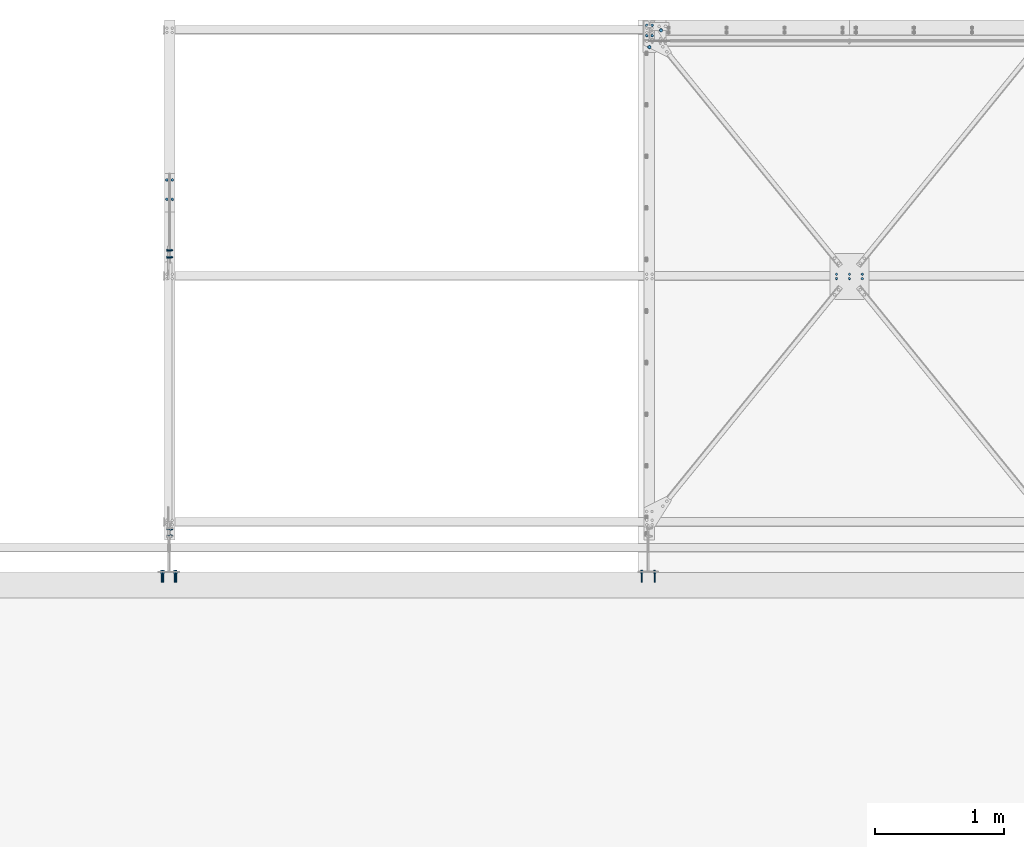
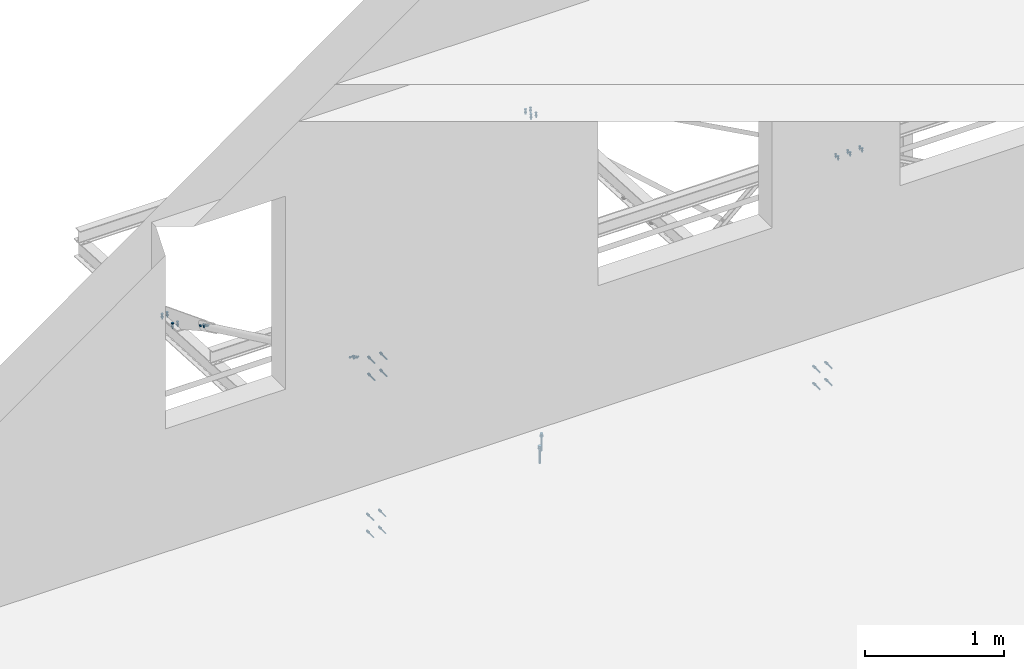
# One storey, part 184 of 362: 10 mechanical fasteners.
"""IFC2X3 building model written with IfcOpenShell, lengths in millimetres."""

import ifcopenshell
import ifcopenshell.guid

model = None  # the IFC model being written
_history = None  # IfcOwnerHistory: only IFC2X3 demands one
_inside = {}  # id of a spatial element -> (the spatial element, [elements in it])
_under = {}  # id of a project, library or spatial element -> (it, [spatial elements below it])
_declared = {}  # id of a project -> (the project, [libraries it declares])
_typed = {}  # id of a type object -> (the type object, [elements of that type])
_made_of = {}  # id of a material, layer set ... -> (it, [elements and type objects made of it])


def new_model(schema):
    """Start an empty IFC model of exactly this schema.

    Asked for "IFC4X3", IfcOpenShell would pick the latest addendum, in which some entities
    have other attributes; the version numbers below select the first issue.
    IFC2X3 requires an IfcOwnerHistory on every rooted entity: one is made here for all.
    """
    global model, _history
    if schema == "IFC4X3":
        model = ifcopenshell.file(schema_version=(4, 3, 0, 0))
    else:
        model = ifcopenshell.file(schema=schema)
    _inside.clear()
    _under.clear()
    _declared.clear()
    _typed.clear()
    _made_of.clear()
    _history = None
    if model.schema == "IFC2X3":
        org = make("IfcOrganization", Name="unknown")
        user = make(
            "IfcPersonAndOrganization",
            ThePerson=make("IfcPerson", FamilyName="unknown"),
            TheOrganization=org,
        )
        app = make(
            "IfcApplication",
            ApplicationDeveloper=org,
            Version="unknown",
            ApplicationFullName="unknown",
            ApplicationIdentifier="unknown",
        )
        _history = make(
            "IfcOwnerHistory",
            OwningUser=user,
            OwningApplication=app,
            ChangeAction="ADDED",
            CreationDate=0,
        )
    return model


def make(cls, **values):
    """One entity of the class cls with the attributes given. An attribute that is None is left unset."""
    return model.create_entity(
        cls, **{name: value for name, value in values.items() if value is not None}
    )


def rooted(cls, **values):
    """An entity with a GlobalId (a new one), such as an element, a storey or a relation."""
    return make(cls, GlobalId=ifcopenshell.guid.new(), OwnerHistory=_history, **values)


def si_unit(unit_type, name, prefix=None):
    """IfcSIUnit, for example si_unit("LENGTHUNIT", "METRE", prefix="MILLI")."""
    return make("IfcSIUnit", UnitType=unit_type, Prefix=prefix, Name=name)


def assignment(units):
    """IfcUnitAssignment: the units of a project."""
    return None if units is None else make("IfcUnitAssignment", Units=units)


def point(xyz):
    """IfcCartesianPoint."""
    return None if xyz is None else make("IfcCartesianPoint", Coordinates=xyz)


def direction(xyz):
    """IfcDirection."""
    return None if xyz is None else make("IfcDirection", DirectionRatios=xyz)


def frame(location, z_axis=None, x_axis=None):
    """IfcAxis2Placement3D, a coordinate frame: its origin and axes. An axis left out is left unset."""
    return make(
        "IfcAxis2Placement3D",
        Location=point(location),
        Axis=direction(z_axis),
        RefDirection=direction(x_axis),
    )


def frame_2d(location, x_axis=None):
    """IfcAxis2Placement2D, a coordinate frame in the plane: its origin and x axis."""
    return make(
        "IfcAxis2Placement2D", Location=point(location), RefDirection=direction(x_axis)
    )


def origin_with_axes():
    """The frame at (0, 0, 0) with the z axis (0, 0, 1) and the x axis (1, 0, 0) written out."""
    return frame((0.0, 0.0, 0.0), z_axis=(0.0, 0.0, 1.0), x_axis=(1.0, 0.0, 0.0))


def origin_2d_with_axis():
    """The frame at (0, 0) in the plane with the x axis (1, 0) written out."""
    return frame_2d((0.0, 0.0), x_axis=(1.0, 0.0))


def place(relative_to, where):
    """IfcLocalPlacement: puts the frame where relative to a parent placement (None: the world)."""
    return make(
        "IfcLocalPlacement", PlacementRelTo=relative_to, RelativePlacement=where
    )


def context(
    kind, dimensions, precision=None, world=None, true_north=None, identifier=None
):
    """IfcGeometricRepresentationContext, for example the 3D "Model" context."""
    return make(
        "IfcGeometricRepresentationContext",
        ContextIdentifier=identifier,
        ContextType=kind,
        CoordinateSpaceDimension=dimensions,
        Precision=precision,
        WorldCoordinateSystem=world,
        TrueNorth=true_north,
    )


def subcontext(parent, identifier, kind, view, scale=None):
    """IfcGeometricRepresentationSubContext, for example "Body" below "Model"."""
    return make(
        "IfcGeometricRepresentationSubContext",
        ContextIdentifier=identifier,
        ContextType=kind,
        ParentContext=parent,
        TargetScale=scale,
        TargetView=view,
    )


def project(units=None, contexts=None):
    """IfcProject with its units and contexts."""
    return rooted(
        "IfcProject",
        Name="project",
        RepresentationContexts=contexts,
        UnitsInContext=assignment(units),
    )


def spatial(cls, under=None, at=None, **own):
    """A site, building, storey or space (cls), placed at a placement, below another one or the project."""
    s = rooted(cls, ObjectPlacement=at, **own)
    if under is not None:
        _under.setdefault(under.id(), (under, []))[1].append(s)
    return s


def polyline(points):
    """IfcPolyline through the points."""
    return make("IfcPolyline", Points=[point(p) for p in points])


def profile(cls, at=None, kind="AREA", **sizes):
    """A parametric profile (cls). Its sizes go by their IFC names, for example OverallWidth=200.0."""
    return make(cls, ProfileType=kind, Position=at, **sizes)


def circle(**sizes):
    """IfcCircleProfileDef."""
    return profile("IfcCircleProfileDef", **sizes)


def outline(outer, holes=None, kind="AREA"):
    """IfcArbitraryClosedProfileDef: a profile drawn as a closed curve; with holes, ...WithVoids."""
    if holes is None:
        return make("IfcArbitraryClosedProfileDef", ProfileType=kind, OuterCurve=outer)
    return make(
        "IfcArbitraryProfileDefWithVoids",
        ProfileType=kind,
        OuterCurve=outer,
        InnerCurves=holes,
    )


def extrude(swept, where, along, depth):
    """IfcExtrudedAreaSolid: the profile swept, set in the frame where, extruded along a direction by depth."""
    return make(
        "IfcExtrudedAreaSolid",
        SweptArea=swept,
        Position=where,
        ExtrudedDirection=direction(along),
        Depth=depth,
    )


def shape(context_of_items, identifier, shape_type, items):
    """IfcShapeRepresentation: the items that make up one representation, for example the "Body"."""
    return make(
        "IfcShapeRepresentation",
        ContextOfItems=context_of_items,
        RepresentationIdentifier=identifier,
        RepresentationType=shape_type,
        Items=items,
    )


def source(mapping_origin, context_of_items, identifier, shape_type, items):
    """IfcRepresentationMap: a shape defined once, which mapped items show again and again."""
    return make(
        "IfcRepresentationMap",
        MappingOrigin=mapping_origin,
        MappedRepresentation=shape(context_of_items, identifier, shape_type, items),
    )


def transform(
    local_origin,
    x_axis=None,
    y_axis=None,
    z_axis=None,
    scale=None,
    scale2=None,
    scale3=None,
    uniform=True,
):
    """IfcCartesianTransformationOperator3D, or its non-uniform kind. x_axis, y_axis, z_axis: its Axis1, 2, 3."""
    if uniform:
        return make(
            "IfcCartesianTransformationOperator3D",
            Axis1=direction(x_axis),
            Axis2=direction(y_axis),
            LocalOrigin=point(local_origin),
            Scale=scale,
            Axis3=direction(z_axis),
        )
    return make(
        "IfcCartesianTransformationOperator3DnonUniform",
        Axis1=direction(x_axis),
        Axis2=direction(y_axis),
        LocalOrigin=point(local_origin),
        Scale=scale,
        Axis3=direction(z_axis),
        Scale2=scale2,
        Scale3=scale3,
    )


def mapped(mapping_source, mapping_target):
    """IfcMappedItem: shows the shape of a source again, moved by a transform."""
    return make(
        "IfcMappedItem", MappingSource=mapping_source, MappingTarget=mapping_target
    )


def material(Name=None, Category=None):
    """IfcMaterial."""
    return make("IfcMaterial", Name=Name, Category=Category)


def made_of(thing, what):
    """Note that an element or type object is made of a material, layer set ...; save() writes the relation."""
    if what is not None:
        _made_of.setdefault(what.id(), (what, []))[1].append(thing)
    return thing


def type_object(cls, material=None, **own):
    """A type object (cls), such as IfcWallType, which elements share."""
    return made_of(rooted(cls, **own), material)


def element(
    cls,
    number,
    at=None,
    inside=None,
    cuts=None,
    type_object=None,
    material=None,
    context=None,
    identifier="Body",
    shape_type=None,
    held_by="IfcProductDefinitionShape",
    body=None,
    shapes=None,
    **own,
):
    """One element of the class cls, such as IfcWall. Its Tag is "e" and its number.

    at: its placement. inside: the storey or other place that contains it. cuts: it is an
    opening in that element (IfcRelVoidsElement). A single representation is given by context,
    identifier, shape_type and body (its items); several are given by shapes. held_by: the class
    of the entity that holds the representations. save() writes the other relations.
    """
    e = rooted(cls, Tag="e%d" % number, ObjectPlacement=at, **own)
    if body is not None:
        shapes = [shape(context, identifier, shape_type, body)]
    if shapes is not None:
        e.Representation = make(held_by, Representations=shapes)
    if inside is not None:
        _inside.setdefault(inside.id(), (inside, []))[1].append(e)
    if cuts is not None:
        rooted(
            "IfcRelVoidsElement", RelatingBuildingElement=cuts, RelatedOpeningElement=e
        )
    if type_object is not None:
        _typed.setdefault(type_object.id(), (type_object, []))[1].append(e)
    return made_of(e, material)


def aggregate(whole, parts):
    """IfcRelAggregates: a whole, such as a stair, and the parts it consists of."""
    return rooted("IfcRelAggregates", RelatingObject=whole, RelatedObjects=parts)


def save(model, path):
    """Write the relations noted so far, then the file.

    IfcRelAggregates (storeys below a building ...), IfcRelContainedInSpatialStructure (elements
    in a storey), IfcRelDefinesByType, IfcRelAssociatesMaterial and IfcRelDeclares: one each for
    every whole, place, type object, material and project.
    """
    for whole, parts in _under.values():
        aggregate(whole, parts)
    for where, things in _inside.values():
        rooted(
            "IfcRelContainedInSpatialStructure",
            RelatedElements=things,
            RelatingStructure=where,
        )
    for kind, things in _typed.values():
        rooted("IfcRelDefinesByType", RelatedObjects=things, RelatingType=kind)
    for what, things in _made_of.values():
        rooted("IfcRelAssociatesMaterial", RelatedObjects=things, RelatingMaterial=what)
    for by, libraries in _declared.values():
        rooted("IfcRelDeclares", RelatingContext=by, RelatedDefinitions=libraries)
    model.write(path)


model = new_model("IFC2X3")

# Units and contexts
model_context = context("Model", 3, precision=1e-05, world=origin_with_axes())
body_context = subcontext(model_context, "Body", "Model", "MODEL_VIEW")
ifc_project = project(units=[si_unit("LENGTHUNIT", "METRE", prefix="MILLI"), si_unit("AREAUNIT", "SQUARE_METRE"), si_unit("VOLUMEUNIT", "CUBIC_METRE"), si_unit("MASSUNIT", "GRAM", prefix="KILO"), si_unit("TIMEUNIT", "SECOND"), si_unit("PLANEANGLEUNIT", "RADIAN"), si_unit("SOLIDANGLEUNIT", "STERADIAN"), si_unit("THERMODYNAMICTEMPERATUREUNIT", "DEGREE_CELSIUS"), si_unit("LUMINOUSINTENSITYUNIT", "LUMEN")], contexts=[model_context])

# Site, building, storey
site_placement = place(None, origin_with_axes())
site = spatial("IfcSite", under=ifc_project, at=site_placement, Name="Undefined", CompositionType="ELEMENT")
building_placement = place(site_placement, origin_with_axes())
building = spatial("IfcBuilding", under=site, at=building_placement, Name="Undefined", CompositionType="ELEMENT")
storey_placement = place(building_placement, origin_with_axes())
storey = spatial("IfcBuildingStorey", under=building, at=storey_placement, Name="Undefined", CompositionType="ELEMENT", Elevation=0.0)

# Mechanical fasteners
ifc_material_1 = material(Name="8.8-SB-GALVA")
mechanical_fastener_type = type_object("IfcMechanicalFastenerType", Name="Bolt assembly")
shared_shape_1 = source(origin_with_axes(), body_context, "Body", "SweptSolid", [
    extrude(circle(Radius=7.0, at=origin_2d_with_axis()), frame((0.0, -7.29999968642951, 0.0), z_axis=(0.0, 1.0, 0.0), x_axis=(1.0, 0.0, 0.0)), (0.0, 0.0, 1.0), 7.4),
    extrude(circle(Radius=7.0, at=origin_2d_with_axis()), frame((0.0, -0.100011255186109, 0.0), z_axis=(0.0, 1.0, 0.0), x_axis=(1.0, 0.0, 0.0)), (0.0, 0.0, 1.0), 10.1),
    extrude(outline(polyline([(10.39230484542, 0.0), (5.19615242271, 9.00000000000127), (-5.19615242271, 9.00000000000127), (-10.39230484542, 0.0), (-5.19615242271, -9.00000000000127), (5.19615242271, -9.00000000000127), (10.39230484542, 0.0)])), frame((0.0, -15.3199996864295, 0.0), z_axis=(0.0, 1.0, 0.0), x_axis=(1.0, 0.0, 0.0)), (0.0, 0.0, 1.0), 7.92),
    extrude(circle(Radius=6.0, at=origin_2d_with_axis()), frame((0.0, -7.40002311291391, 0.0), z_axis=(0.0, 1.0, 0.0), x_axis=(1.0, 0.0, 0.0)), (0.0, 0.0, 1.0), 40.0),
    extrude(outline(polyline([(11.5008173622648, 0.0), (5.7504086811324, 9.96000000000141), (-5.7504086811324, 9.96000000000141), (-11.5008173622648, 0.0), (-5.7504086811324, -9.96000000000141), (5.7504086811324, -9.96000000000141), (11.5008173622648, 0.0)])), frame((0.0, 10.0000000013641, 0.0), z_axis=(0.0, 1.0, 0.0), x_axis=(1.0, 0.0, 0.0)), (0.0, 0.0, 1.0), 7.92),
])
mechanical_fastener_1_placement = place(storey_placement, frame((28902.9999703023, 29199.0803220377, 2679.92406383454), z_axis=(-1.0, 0.0, 0.0), x_axis=(-6.99999093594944e-09, 0.998630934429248, -0.0523092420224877)))
element("IfcMechanicalFastener", 1, at=mechanical_fastener_1_placement, inside=storey, type_object=mechanical_fastener_type, material=ifc_material_1, Name="Bolt assembly", NominalDiameter=12.0, NominalLength=40.0, context=body_context, shape_type="MappedRepresentation", body=[
    mapped(shared_shape_1, transform((0.0, 0.0, -21.0))),
    mapped(shared_shape_1, transform((80.0000000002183, -6.73026079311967e-11, -21.0))),
    mapped(shared_shape_1, transform((0.0, 0.0, 21.0))),
    mapped(shared_shape_1, transform((80.0000000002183, -6.73026079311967e-11, 21.0))),
])
ifc_material_2 = material(Name="6.8")
shared_shape_2 = source(origin_with_axes(), body_context, "Body", "SweptSolid", [
    extrude(circle(Radius=6.0, at=origin_2d_with_axis()), frame((0.0, -6.19999893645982, 0.0), z_axis=(0.0, 1.0, 0.0), x_axis=(1.0, 0.0, 0.0)), (0.0, 0.0, 1.0), 6.3),
    extrude(circle(Radius=6.0, at=origin_2d_with_axis()), frame((0.0, -0.100011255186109, 0.0), z_axis=(0.0, 1.0, 0.0), x_axis=(1.0, 0.0, 0.0)), (0.0, 0.0, 1.0), 5.1),
    extrude(outline(polyline([(9.81495457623, 0.0), (4.907477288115, 8.5000000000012), (-4.907477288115, 8.5000000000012), (-9.81495457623, 0.0), (-4.907477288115, -8.5000000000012), (4.907477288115, -8.5000000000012), (9.81495457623, 0.0)])), frame((0.0, -13.7999989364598, 0.0), z_axis=(0.0, 1.0, 0.0), x_axis=(1.0, 0.0, 0.0)), (0.0, 0.0, 1.0), 7.5),
    extrude(circle(Radius=5.0, at=origin_2d_with_axis()), frame((0.0, -6.29999893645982, 0.0), z_axis=(0.0, 1.0, 0.0), x_axis=(1.0, 0.0, 0.0)), (0.0, 0.0, 1.0), 30.0),
    extrude(outline(polyline([(9.23760430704, 0.0), (4.61880215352, 8.00000000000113), (-4.61880215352, 8.00000000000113), (-9.23760430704, 0.0), (-4.61880215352, -8.00000000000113), (4.61880215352, -8.00000000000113), (9.23760430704, 0.0)])), frame((0.0, 5.0, 0.0), z_axis=(0.0, 1.0, 0.0), x_axis=(1.0, 0.0, 0.0)), (0.0, 0.0, 1.0), 8.4),
])
mechanical_fastener_2_placement = place(storey_placement, frame((30452.9999538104, 27349.5897730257, 2937.02148681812), z_axis=(1.0, 0.0, 0.0), x_axis=(0.0, -0.998630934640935, 0.0523092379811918)))
element("IfcMechanicalFastener", 2, at=mechanical_fastener_2_placement, inside=storey, type_object=mechanical_fastener_type, material=ifc_material_2, Name="Bolt assembly", NominalDiameter=10.0, NominalLength=30.0, context=body_context, shape_type="MappedRepresentation", body=[
    mapped(shared_shape_2, transform((0.0, 0.0, -100.0))),
    mapped(shared_shape_2, transform((33.9999999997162, 3.36513039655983e-10, -100.000000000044))),
    mapped(shared_shape_2, transform((0.0, 0.0, 0.0))),
    mapped(shared_shape_2, transform((33.9999999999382, 6.2755134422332e-11, -4.36557456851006e-11))),
    mapped(shared_shape_2, transform((0.0, 0.0, 100.0))),
    mapped(shared_shape_2, transform((34.0000000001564, -2.11002770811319e-10, 99.9999999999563))),
])
ifc_material_3 = material(Name="HILTI-HSA-R")
shared_shape_3 = source(origin_with_axes(), body_context, "Body", "SweptSolid", [
    extrude(circle(Radius=7.0, at=origin_2d_with_axis()), frame((0.0, -9.99994875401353, 0.0), z_axis=(0.0, 1.0, 0.0), x_axis=(1.0, 0.0, 0.0)), (0.0, 0.0, 1.0), 10.1),
    extrude(outline(polyline([(10.39230484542, 0.0), (5.19615242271, 9.00000000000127), (-5.19615242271, 9.00000000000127), (-10.39230484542, 0.0), (-5.19615242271, -9.00000000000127), (5.19615242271, -9.00000000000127), (10.39230484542, 0.0)])), frame((0.0, -17.9199487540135, 0.0), z_axis=(0.0, 1.0, 0.0), x_axis=(1.0, 0.0, 0.0)), (0.0, 0.0, 1.0), 7.92),
    extrude(circle(Radius=6.0, at=origin_2d_with_axis()), frame((0.0, -9.99994875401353, 0.0), z_axis=(0.0, 1.0, 0.0), x_axis=(1.0, 0.0, 0.0)), (0.0, 0.0, 1.0), 89.2),
    extrude(outline(polyline([(11.5008173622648, 0.0), (5.7504086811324, 9.96000000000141), (-5.7504086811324, 9.96000000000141), (-11.5008173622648, 0.0), (-5.7504086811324, -9.96000000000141), (5.7504086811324, -9.96000000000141), (11.5008173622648, 0.0)])), frame((0.0, 6.26397177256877e-05, 0.0), z_axis=(0.0, 1.0, 0.0), x_axis=(1.0, 0.0, 0.0)), (0.0, 0.0, 1.0), 7.92),
])
for number, where, z_axis, x_axis, name in (
    (3, (28893.0000296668, 25040.0000000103, 3000.00032537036), (-1.0, 0.0, 0.0), (0.0, 0.0, -1.0), "Bolt assembly"),
    (4, (25185.0000296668, 25039.9999999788, 4380.00032537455), (-1.0, 0.0, 0.0), (0.0, 0.0, -1.0), "Bolt assembly"),
    (5, (25175.0000296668, 25040.0000000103, 3000.00032537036), (-1.0, 0.0, 0.0), (0.0, 0.0, -1.0), "Bolt assembly"),
):
    element("IfcMechanicalFastener", number, at=place(storey_placement, frame(where, z_axis=z_axis, x_axis=x_axis)), inside=storey, type_object=mechanical_fastener_type, material=ifc_material_3, Name=name, NominalDiameter=12.0, NominalLength=89.1999969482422, context=body_context, shape_type="MappedRepresentation", body=[
        mapped(shared_shape_3, transform((0.0, 0.0, 50.0))),
        mapped(shared_shape_3, transform((150.0, 0.0, 50.0))),
        mapped(shared_shape_3, transform((0.0, 0.0, -50.0))),
        mapped(shared_shape_3, transform((150.0, 0.0, -50.0))),
    ])
shared_shape_4 = source(origin_with_axes(), body_context, "Body", "SweptSolid", [
    extrude(circle(Radius=7.0, at=origin_2d_with_axis()), frame((0.0, -0.100011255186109, 0.0), z_axis=(0.0, 1.0, 0.0), x_axis=(1.0, 0.0, 0.0)), (0.0, 0.0, 1.0), 7.5),
    extrude(circle(Radius=7.0, at=origin_2d_with_axis()), frame((0.0, -9.9, 0.0), z_axis=(0.0, 1.0, 0.0), x_axis=(1.0, 0.0, 0.0)), (0.0, 0.0, 1.0), 10.0),
    extrude(outline(polyline([(10.39230484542, 0.0), (5.19615242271, 9.00000000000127), (-5.19615242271, 9.00000000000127), (-10.39230484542, 0.0), (-5.19615242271, -9.00000000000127), (5.19615242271, -9.00000000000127), (10.39230484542, 0.0)])), frame((0.0, -17.92, 0.0), z_axis=(0.0, 1.0, 0.0), x_axis=(1.0, 0.0, 0.0)), (0.0, 0.0, 1.0), 7.92),
    extrude(circle(Radius=6.0, at=origin_2d_with_axis()), frame((0.0, -10.0000010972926, 0.0), z_axis=(0.0, 1.0, 0.0), x_axis=(1.0, 0.0, 0.0)), (0.0, 0.0, 1.0), 40.0),
    extrude(outline(polyline([(11.5008173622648, 0.0), (5.7504086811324, 9.96000000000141), (-5.7504086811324, 9.96000000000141), (-11.5008173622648, 0.0), (-5.7504086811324, -9.96000000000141), (5.7504086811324, -9.96000000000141), (11.5008173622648, 0.0)])), frame((0.0, 7.40000130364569, 0.0), z_axis=(0.0, 1.0, 0.0), x_axis=(1.0, 0.0, 0.0)), (0.0, 0.0, 1.0), 7.92),
])
mechanical_fastener_3_placement = place(storey_placement, frame((25185.0000287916, 27931.056061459, 2906.5637322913), z_axis=(-1.0, 0.0, 0.0), x_axis=(-6.99999093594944e-09, 0.998630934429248, -0.0523092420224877)))
element("IfcMechanicalFastener", 6, at=mechanical_fastener_3_placement, inside=storey, type_object=mechanical_fastener_type, material=ifc_material_1, Name="Bolt assembly", NominalDiameter=12.0, NominalLength=40.0, context=body_context, shape_type="MappedRepresentation", body=[
    mapped(shared_shape_4, transform((0.0, 0.0, 21.0))),
    mapped(shared_shape_4, transform((150.000000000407, -1.25510268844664e-10, 21.0))),
    mapped(shared_shape_4, transform((0.0, 0.0, -21.0))),
    mapped(shared_shape_4, transform((150.000000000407, -1.25510268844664e-10, -21.0))),
])
shared_shape_5 = source(origin_with_axes(), body_context, "Body", "SweptSolid", [
    extrude(circle(Radius=7.0, at=origin_2d_with_axis()), frame((0.0, -5.1000000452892, 0.0), z_axis=(0.0, 1.0, 0.0), x_axis=(1.0, 0.0, 0.0)), (0.0, 0.0, 1.0), 10.1),
    extrude(circle(Radius=7.0, at=origin_2d_with_axis()), frame((0.0, -14.899999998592, 0.0), z_axis=(0.0, 1.0, 0.0), x_axis=(1.0, 0.0, 0.0)), (0.0, 0.0, 1.0), 10.0),
    extrude(outline(polyline([(10.39230484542, 0.0), (5.19615242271, 9.00000000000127), (-5.19615242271, 9.00000000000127), (-10.39230484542, 0.0), (-5.19615242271, -9.00000000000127), (5.19615242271, -9.00000000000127), (10.39230484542, 0.0)])), frame((0.0, -22.919999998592, 0.0), z_axis=(0.0, 1.0, 0.0), x_axis=(1.0, 0.0, 0.0)), (0.0, 0.0, 1.0), 7.92),
    extrude(circle(Radius=6.0, at=origin_2d_with_axis()), frame((0.0, -14.999999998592, 0.0), z_axis=(0.0, 1.0, 0.0), x_axis=(1.0, 0.0, 0.0)), (0.0, 0.0, 1.0), 40.0),
    extrude(outline(polyline([(11.5008173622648, 0.0), (5.7504086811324, 9.96000000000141), (-5.7504086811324, 9.96000000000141), (-11.5008173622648, 0.0), (-5.7504086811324, -9.96000000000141), (5.7504086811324, -9.96000000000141), (11.5008173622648, 0.0)])), frame((0.0, 5.0, 0.0), z_axis=(0.0, 1.0, 0.0), x_axis=(1.0, 0.0, 0.0)), (0.0, 0.0, 1.0), 7.92),
])
for number, where, z_axis, x_axis, name in (
    (7, (25185.0000297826, 25321.5814427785, 4195.49751229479), (0.0, -0.431020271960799, -0.902342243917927), (0.0, 0.902342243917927, -0.431020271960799), "Bolt assembly"),
    (8, (25185.0000292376, 27534.9082720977, 3138.26148197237), (0.0, 0.431020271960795, 0.902342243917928), (0.0, -0.902342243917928, 0.431020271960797), "Bolt assembly"),
):
    element("IfcMechanicalFastener", number, at=place(storey_placement, frame(where, z_axis=z_axis, x_axis=x_axis)), inside=storey, type_object=mechanical_fastener_type, material=ifc_material_1, Name=name, NominalDiameter=12.0, NominalLength=40.0, context=body_context, shape_type="MappedRepresentation", body=[
        mapped(shared_shape_5, transform((0.0, 0.0, 0.0))),
        mapped(shared_shape_5, transform((60.0, 0.0, 0.0))),
    ])
ifc_material_4 = material(Name="HILTI-HST-R")
shared_shape_6 = source(origin_with_axes(), body_context, "Body", "SweptSolid", [
    extrude(circle(Radius=9.0, at=origin_2d_with_axis()), frame((0.0, -10.0000010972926, 0.0), z_axis=(0.0, 1.0, 0.0), x_axis=(1.0, 0.0, 0.0)), (0.0, 0.0, 1.0), 10.1),
    extrude(outline(polyline([(13.85640646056, 0.0), (6.92820323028, 12.0000000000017), (-6.92820323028, 12.0000000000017), (-13.85640646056, 0.0), (-6.92820323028, -12.0000000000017), (6.92820323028, -12.0000000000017), (13.85640646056, 0.0)])), frame((0.0, -20.5600000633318, 0.0), z_axis=(0.0, 1.0, 0.0), x_axis=(1.0, 0.0, 0.0)), (0.0, 0.0, 1.0), 10.56),
    extrude(circle(Radius=8.0, at=origin_2d_with_axis()), frame((0.0, -10.0000010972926, 0.0), z_axis=(0.0, 1.0, 0.0), x_axis=(1.0, 0.0, 0.0)), (0.0, 0.0, 1.0), 146.2),
    extrude(outline(polyline([(15.3344231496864, 0.0), (7.6672115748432, 13.2800000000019), (-7.6672115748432, 13.2800000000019), (-15.3344231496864, 0.0), (-7.6672115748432, -13.2800000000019), (7.6672115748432, -13.2800000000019), (15.3344231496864, 0.0)])), frame((0.0, 0.0, 0.0), z_axis=(0.0, 1.0, 0.0), x_axis=(1.0, 0.0, 0.0)), (0.0, 0.0, 1.0), 10.56),
])
for number, where, z_axis, x_axis, name in (
    (9, (28902.9999727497, 29110.000066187, -200.0), (-1.0, 0.0, 0.0), (0.0, 1.0, 0.0), "Bolt assembly"),
    (10, (28992.9999403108, 29240.0000662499, -200.0), (0.0, -1.0, 0.0), (-1.0, 0.0, 0.0), "Bolt assembly"),
):
    element("IfcMechanicalFastener", number, at=place(storey_placement, frame(where, z_axis=z_axis, x_axis=x_axis)), inside=storey, type_object=mechanical_fastener_type, material=ifc_material_4, Name=name, NominalDiameter=16.0, NominalLength=146.199996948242, context=body_context, shape_type="MappedRepresentation", body=[
        mapped(shared_shape_6, transform((0.0, 0.0, 0.0))),
    ])

save(model, "model.ifc")
